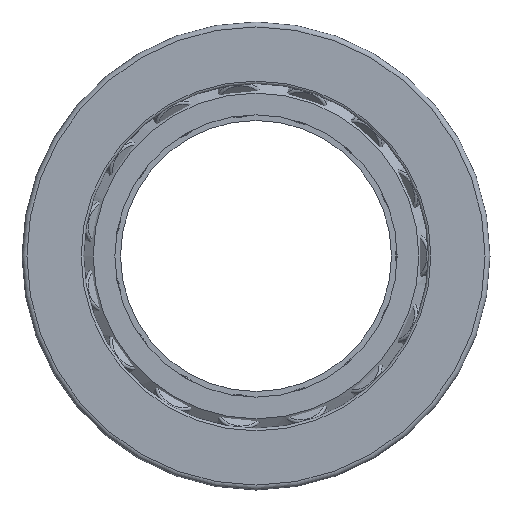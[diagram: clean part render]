
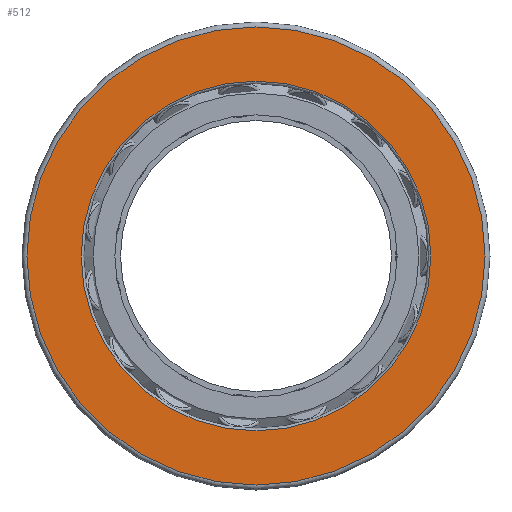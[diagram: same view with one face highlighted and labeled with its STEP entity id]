
A CAD part, front view. The second image highlights one B-rep face of the part: STEP entity #512.
In plain terms, the highlighted planar face has unit normal (0, -1, 0).
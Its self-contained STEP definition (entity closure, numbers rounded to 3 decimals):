
#110=PLANE('',#561);
#134=FACE_BOUND('',#207,.T.);
#165=FACE_OUTER_BOUND('',#206,.T.);
#206=EDGE_LOOP('',(#411));
#207=EDGE_LOOP('',(#412));
#271=CIRCLE('',#559,71.);
#273=CIRCLE('',#562,93.);
#315=VERTEX_POINT('',#864);
#317=VERTEX_POINT('',#869);
#359=EDGE_CURVE('',#315,#315,#271,.T.);
#361=EDGE_CURVE('',#317,#317,#273,.T.);
#411=ORIENTED_EDGE('',*,*,#361,.F.);
#412=ORIENTED_EDGE('',*,*,#359,.F.);
#512=ADVANCED_FACE('',(#165,#134),#110,.T.);
#559=AXIS2_PLACEMENT_3D('',#865,#669,#670);
#561=AXIS2_PLACEMENT_3D('',#868,#673,#674);
#562=AXIS2_PLACEMENT_3D('',#870,#675,#676);
#669=DIRECTION('center_axis',(0.,-1.,0.));
#670=DIRECTION('ref_axis',(-1.,0.,0.));
#673=DIRECTION('center_axis',(0.,-1.,0.));
#674=DIRECTION('ref_axis',(0.,0.,-1.));
#675=DIRECTION('center_axis',(0.,1.,0.));
#676=DIRECTION('ref_axis',(-1.,0.,0.));
#864=CARTESIAN_POINT('',(71.,-24.,0.));
#865=CARTESIAN_POINT('Origin',(0.,-24.,0.));
#868=CARTESIAN_POINT('Origin',(70.,-24.,0.));
#869=CARTESIAN_POINT('',(93.,-24.,0.));
#870=CARTESIAN_POINT('Origin',(0.,-24.,0.));
